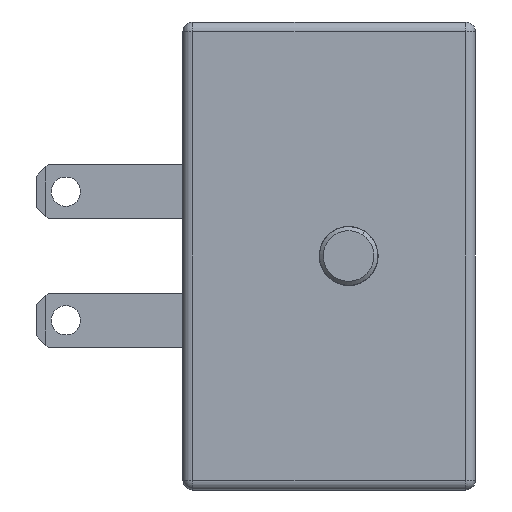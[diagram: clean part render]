
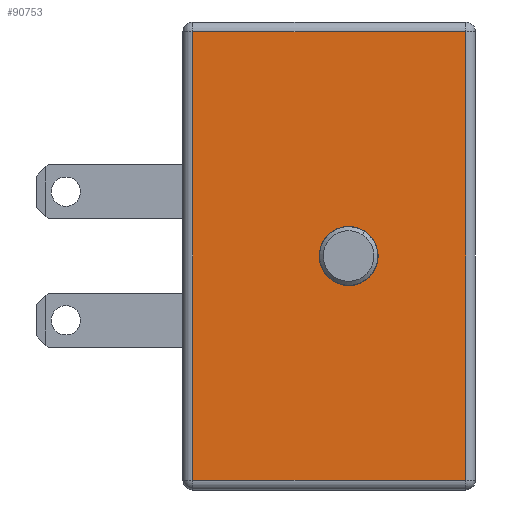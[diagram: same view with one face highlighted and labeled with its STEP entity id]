
A CAD part, left-side view. The second image highlights one B-rep face of the part: STEP entity #90753.
In plain terms, the highlighted planar face has unit normal (-1, 0, 0) as drawn and (0, 0, -1) by its records, which use the part's own axes.
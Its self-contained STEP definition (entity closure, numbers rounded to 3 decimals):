
#1010 = EDGE_CURVE ( 'NONE', #203184, #153854, #67275, .T. ) ;
#1207 = CARTESIAN_POINT ( 'NONE',  ( -11.5, 8., -37. ) ) ;
#1948 = VECTOR ( 'NONE', #181186, 1000. ) ;
#5194 = DIRECTION ( 'NONE',  ( 0., 1., 0. ) ) ;
#9978 = EDGE_CURVE ( 'NONE', #153854, #65028, #175495, .T. ) ;
#10113 = CARTESIAN_POINT ( 'NONE',  ( -12., -6., -37. ) ) ;
#12935 = VERTEX_POINT ( 'NONE', #129982 ) ;
#21805 = ORIENTED_EDGE ( 'NONE', *, *, #170356, .T. ) ;
#35983 = CARTESIAN_POINT ( 'NONE',  ( 11.5, -6., -37. ) ) ;
#54429 = ORIENTED_EDGE ( 'NONE', *, *, #69514, .T. ) ;
#56601 = ORIENTED_EDGE ( 'NONE', *, *, #1010, .T. ) ;
#64607 = CARTESIAN_POINT ( 'NONE',  ( 0., 0., -37. ) ) ;
#65028 = VERTEX_POINT ( 'NONE', #129159 ) ;
#67275 = LINE ( 'NONE', #94376, #294034 ) ;
#67521 = EDGE_CURVE ( 'NONE', #12935, #264779, #240355, .T. ) ;
#69514 = EDGE_CURVE ( 'NONE', #264779, #12935, #158525, .T. ) ;
#73685 = DIRECTION ( 'NONE',  ( 0., 0., 1. ) ) ;
#73812 = ORIENTED_EDGE ( 'NONE', *, *, #67521, .T. ) ;
#85592 = EDGE_LOOP ( 'NONE', ( #175234, #223741, #21805, #56601 ) ) ;
#90753 = ADVANCED_FACE ( 'NONE', ( #257541, #197214 ), #224036, .T. ) ;
#94376 = CARTESIAN_POINT ( 'NONE',  ( -11.5, -6.5, -37. ) ) ;
#95220 = CARTESIAN_POINT ( 'NONE',  ( 11.5, -6.5, -37. ) ) ;
#96108 = DIRECTION ( 'NONE',  ( 0., -1., 0. ) ) ;
#105802 = EDGE_LOOP ( 'NONE', ( #54429, #73812 ) ) ;
#111210 = DIRECTION ( 'NONE',  ( -0.487, 0.873, 0. ) ) ;
#115244 = DIRECTION ( 'NONE',  ( 0., 0., 1. ) ) ;
#118185 = VECTOR ( 'NONE', #96108, 1000. ) ;
#126254 = AXIS2_PLACEMENT_3D ( 'NONE', #64607, #246844, #111210 ) ;
#129159 = CARTESIAN_POINT ( 'NONE',  ( 11.5, 8., -37. ) ) ;
#129982 = CARTESIAN_POINT ( 'NONE',  ( -0.738, 1.323, -37. ) ) ;
#137349 = LINE ( 'NONE', #10113, #243600 ) ;
#141802 = CARTESIAN_POINT ( 'NONE',  ( 0.738, -1.323, -37. ) ) ;
#153854 = VERTEX_POINT ( 'NONE', #1207 ) ;
#158525 = CIRCLE ( 'NONE', #207980, 1.515 ) ;
#170356 = EDGE_CURVE ( 'NONE', #293861, #203184, #137349, .T. ) ;
#175234 = ORIENTED_EDGE ( 'NONE', *, *, #9978, .T. ) ;
#175495 = LINE ( 'NONE', #208804, #1948 ) ;
#181186 = DIRECTION ( 'NONE',  ( 1., 0., 0. ) ) ;
#197214 = FACE_OUTER_BOUND ( 'NONE', #85592, .T. ) ;
#201893 = AXIS2_PLACEMENT_3D ( 'NONE', #250890, #115244, #273644 ) ;
#203184 = VERTEX_POINT ( 'NONE', #280921 ) ;
#207980 = AXIS2_PLACEMENT_3D ( 'NONE', #209278, #73685, #232142 ) ;
#208804 = CARTESIAN_POINT ( 'NONE',  ( 12., 8., -37. ) ) ;
#209278 = CARTESIAN_POINT ( 'NONE',  ( 0., 0., -37. ) ) ;
#223741 = ORIENTED_EDGE ( 'NONE', *, *, #233475, .T. ) ;
#224036 = PLANE ( 'NONE',  #126254 ) ;
#232142 = DIRECTION ( 'NONE',  ( 0.487, -0.873, 0. ) ) ;
#233475 = EDGE_CURVE ( 'NONE', #65028, #293861, #238632, .T. ) ;
#238632 = LINE ( 'NONE', #95220, #118185 ) ;
#240355 = CIRCLE ( 'NONE', #201893, 1.515 ) ;
#243600 = VECTOR ( 'NONE', #259648, 1000. ) ;
#246844 = DIRECTION ( 'NONE',  ( 0., 0., -1. ) ) ;
#250890 = CARTESIAN_POINT ( 'NONE',  ( 0., 0., -37. ) ) ;
#257541 = FACE_BOUND ( 'NONE', #105802, .T. ) ;
#259648 = DIRECTION ( 'NONE',  ( -1., 0., 0. ) ) ;
#264779 = VERTEX_POINT ( 'NONE', #141802 ) ;
#273644 = DIRECTION ( 'NONE',  ( 0.487, -0.873, 0. ) ) ;
#280921 = CARTESIAN_POINT ( 'NONE',  ( -11.5, -6., -37. ) ) ;
#293861 = VERTEX_POINT ( 'NONE', #35983 ) ;
#294034 = VECTOR ( 'NONE', #5194, 1000. ) ;
